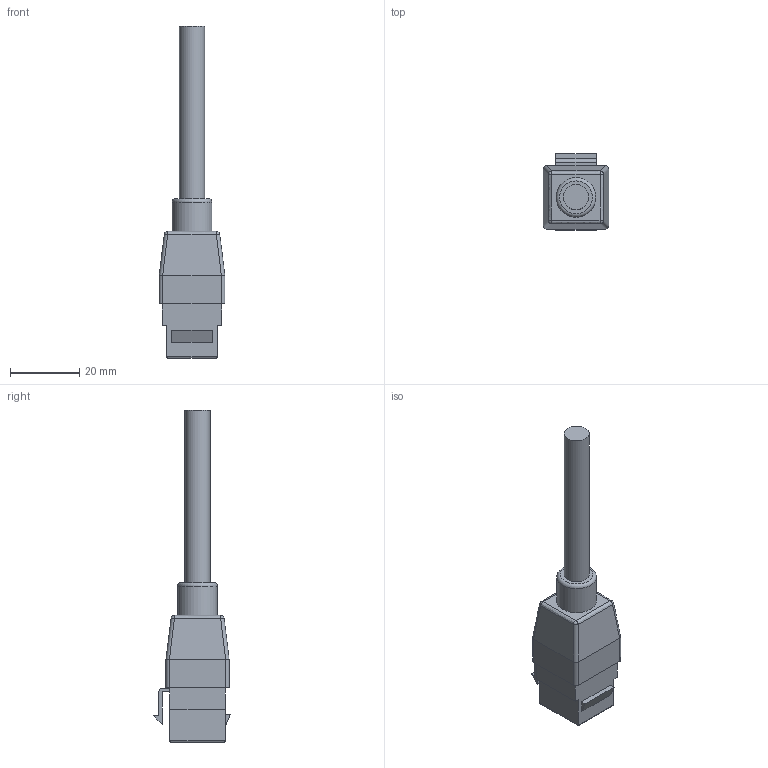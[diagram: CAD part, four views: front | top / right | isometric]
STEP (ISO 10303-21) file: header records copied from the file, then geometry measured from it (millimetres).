
FILE_DESCRIPTION(('FreeCAD Model'),'2;1');
FILE_NAME('Open CASCADE Shape Model','2026-06-15T13:16:25',(''),(''), 'Open CASCADE STEP processor 7.8','FreeCAD','Unknown');
FILE_SCHEMA(('AUTOMOTIVE_DESIGN { 1 0 10303 214 1 1 1 1 }'));
Length unit declared in the file: millimetre
Products named in the file (1): HDMI-AMSCAM-0200-XX_P2
Bounding box: 19 x 22.21 x 96.2 mm (x, y, z)
Volume: 13266.1 mm3; surface area: 5292.5 mm2
Topology: 1 solids, 1 shells, 75 faces, 177 edges, 111 vertices
Faces by surface type: plane 43, bspline 20, cylinder 11, torus 1
Full cylindrical faces by diameter (mm): 7.3 x1, 11.5 x1
Entity records: 3416 total; most frequent: CARTESIAN_POINT 1859, ORIENTED_EDGE 354, DIRECTION 257, EDGE_CURVE 177, LINE 113, VECTOR 113, VERTEX_POINT 111, FACE_BOUND 82
